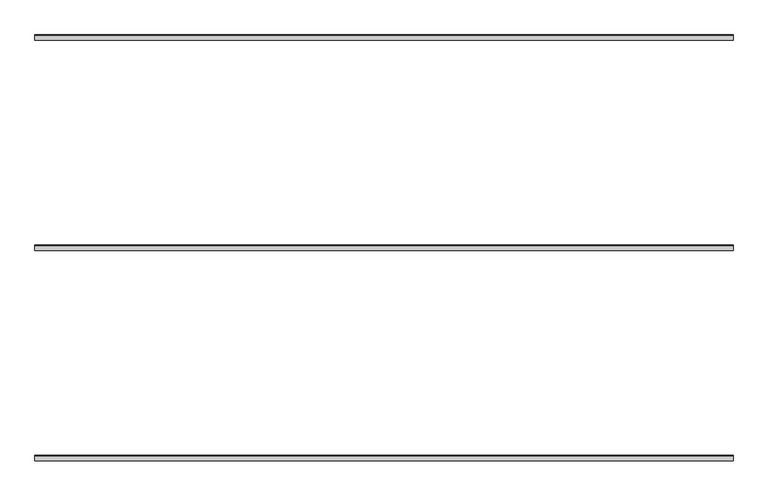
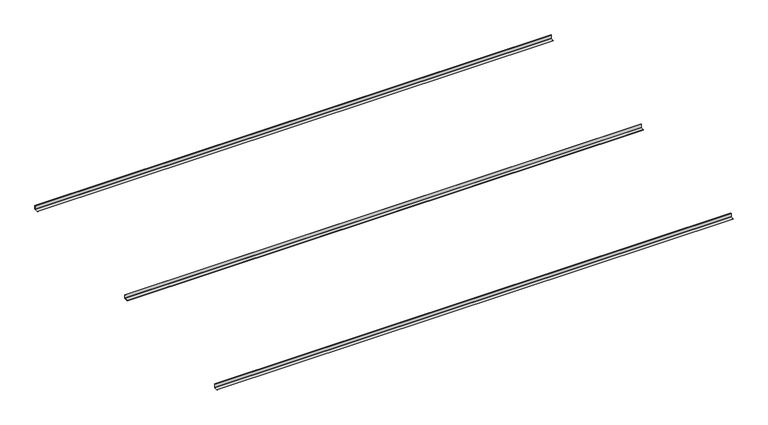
"""IFC4 building model written with IfcOpenShell, lengths in millimetres: proxy geometry, durlum_S-OMEGA-40 : durlum_S-OMEGA-40."""

from ifc_helpers import new_model, si_unit, point, frame, frame_2d, origin, place, context, project, spatial, polyline, circle_curve, trimmed, segment, composite_curve, outline, extrude, source, transform, mapped, element, save


def generic_models_5a70d6f2(model_context):
    return source(origin(), model_context, "Body", "SweptSolid", [
        extrude(outline(composite_curve([segment(polyline([(-2.0, 3903.9), (0.0, 3903.9), (0.0, 3878.0)]), True, "CONTINUOUS"), segment(trimmed(circle_curve(frame_2d((-4.0, 3878.0)), 4.0), [point((0.0, 3878.0))], [point((-4.0, 3874.0))], False, "CARTESIAN"), True, "CONTINUOUS"), segment(polyline([(-4.0, 3874.0), (-29.9, 3874.0), (-29.9, 3876.0), (-4.0, 3876.0)]), True, "CONTINUOUS"), segment(trimmed(circle_curve(frame_2d((-4.0, 3878.0)), 2.0), [point((-4.0, 3876.0))], [point((-2.0, 3878.0))], True, "CARTESIAN"), True, "CONTINUOUS"), segment(polyline([(-2.0, 3878.0), (-2.0, 3903.9)]), True, "CONTINUOUS")], self_intersect=False)), frame((-1990.0, 0.0, 0.0), z_axis=(1.0, 0.0, 0.0), x_axis=(0.0, 1.0, 0.0)), (0.0, 0.0, 1.0), 3980.0),
        extrude(outline(composite_curve([segment(polyline([(1198.0, 3903.9), (1200.0, 3903.9), (1200.0, 3878.0)]), True, "CONTINUOUS"), segment(trimmed(circle_curve(frame_2d((1196.0, 3878.0)), 4.0), [point((1200.0, 3878.0))], [point((1196.0, 3874.0))], False, "CARTESIAN"), True, "CONTINUOUS"), segment(polyline([(1196.0, 3874.0), (1170.1, 3874.0), (1170.1, 3876.0), (1196.0, 3876.0)]), True, "CONTINUOUS"), segment(trimmed(circle_curve(frame_2d((1196.0, 3878.0)), 2.0), [point((1196.0, 3876.0))], [point((1198.0, 3878.0))], True, "CARTESIAN"), True, "CONTINUOUS"), segment(polyline([(1198.0, 3878.0), (1198.0, 3903.9)]), True, "CONTINUOUS")], self_intersect=False)), frame((-1990.0, 0.0, 0.0), z_axis=(1.0, 0.0, 0.0), x_axis=(0.0, 1.0, 0.0)), (0.0, 0.0, 1.0), 3980.0),
        extrude(outline(composite_curve([segment(polyline([(-1202.0, 3903.9), (-1200.0, 3903.9), (-1200.0, 3878.0)]), True, "CONTINUOUS"), segment(trimmed(circle_curve(frame_2d((-1204.0, 3878.0)), 4.0), [point((-1200.0, 3878.0))], [point((-1204.0, 3874.0))], False, "CARTESIAN"), True, "CONTINUOUS"), segment(polyline([(-1204.0, 3874.0), (-1229.9, 3874.0), (-1229.9, 3876.0), (-1204.0, 3876.0)]), True, "CONTINUOUS"), segment(trimmed(circle_curve(frame_2d((-1204.0, 3878.0)), 2.0), [point((-1204.0, 3876.0))], [point((-1202.0, 3878.0))], True, "CARTESIAN"), True, "CONTINUOUS"), segment(polyline([(-1202.0, 3878.0), (-1202.0, 3903.9)]), True, "CONTINUOUS")], self_intersect=False)), frame((-1990.0, 0.0, 0.0), z_axis=(1.0, 0.0, 0.0), x_axis=(0.0, 1.0, 0.0)), (0.0, 0.0, 1.0), 3980.0),
    ])


if __name__ == "__main__":
    model = new_model("IFC4")
    model_context = context("Model", 3, world=origin())
    ifc_project = project(units=[si_unit("LENGTHUNIT", "METRE", prefix="MILLI")], contexts=[model_context])
    site = spatial("IfcSite", under=ifc_project)
    building = spatial("IfcBuilding", under=site)
    placement = place(None, origin())
    generic_models_shape = generic_models_5a70d6f2(model_context)
    element("IfcBuildingElementProxy", 1, Name="durlum_S-OMEGA-40 : durlum_S-OMEGA-40", ObjectType="durlum_S-OMEGA-40 : durlum_S-OMEGA-40", at=placement, inside=building, context=model_context, shape_type="MappedRepresentation", body=[
        mapped(generic_models_shape, transform((0.0, 0.0, 0.0), x_axis=(1.0, 0.0, 0.0), y_axis=(0.0, 1.0, 0.0), z_axis=(0.0, 0.0, 1.0))),
    ])
    save(model, "model.ifc")
